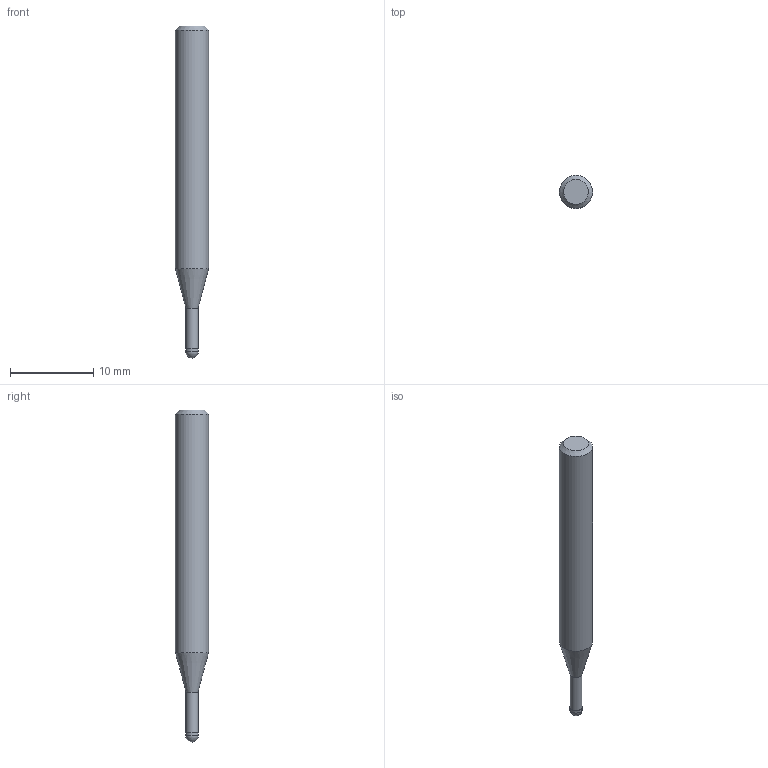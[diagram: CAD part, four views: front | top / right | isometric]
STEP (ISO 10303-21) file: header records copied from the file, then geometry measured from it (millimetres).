
FILE_DESCRIPTION((''),'2;1');
FILE_NAME('C:\Users\nsx150\AppData\Local\Temp\Mastercam 2021\QT8KEW0Y7J\TEMP.step','2021-04-23T11:21:20',(''),(''),'STEP Write','Mastercam 2021 ... CNC Software, Inc.','');
FILE_SCHEMA(('AUTOMOTIVE_DESIGN'));
Length unit declared in the file: millimetre
Products named in the file (1): None
Bounding box: 4 x 4 x 40 mm (x, y, z)
Volume: 405.4 mm3; surface area: 449.1 mm2
Topology: 2 solids, 2 shells, 9 faces, 14 edges, 8 vertices
Faces by surface type: plane 3, cylinder 3, cone 2, sphere 1
Full cylindrical faces by diameter (mm): 1.45 x1, 1.5 x1, 4 x1
Entity records: 211 total; most frequent: DIRECTION 36, CARTESIAN_POINT 25, AXIS2_PLACEMENT_3D 18, ORIENTED_EDGE 14, EDGE_LOOP 14, STYLED_ITEM 12, ADVANCED_FACE 9, FACE_BOUND 8
